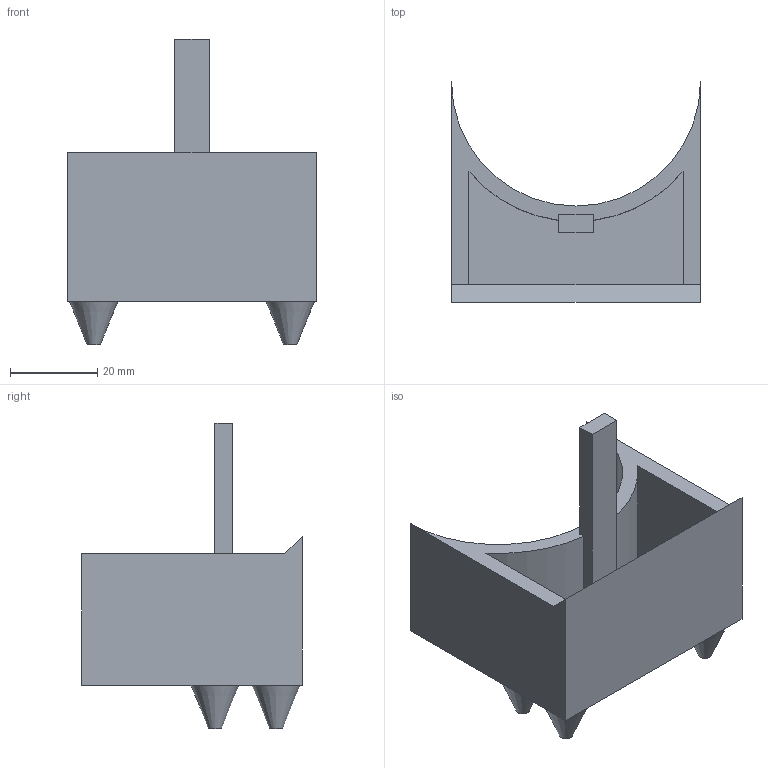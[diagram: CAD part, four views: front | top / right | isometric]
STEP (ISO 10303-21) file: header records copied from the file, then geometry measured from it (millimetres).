
FILE_DESCRIPTION(/* description */ ('STEP AP242','CAx-IF Rec.Pracs.---Representation and Presentation of Product Manufacturing Information (PMI)---4.0---2014-10-13','CAx-IF Rec.Pracs.---3D Tessellated Geometry---0.4---2014-09-14','2;1'),/* implementation_level */ '2;1');
FILE_NAME(/* name */ '66c9b453ffaa4d41a46b33a6',/* time_stamp */ '2024-08-24T10:22:12Z',/* author */ (''),/* organization */ (''),/* preprocessor_version */ 'ST-DEVELOPER v20',/* originating_system */ ' ',/* authorisation */ ' ');
FILE_SCHEMA (('AP242_MANAGED_MODEL_BASED_3D_ENGINEERING_MIM_LF { 1 0 10303 442 1 1 4 }'));
Length unit declared in the file: metre
Products named in the file (1): Part 1
Bounding box: 57 x 50.5 x 70 mm (x, y, z)
Volume: 28898 mm3; surface area: 16528.6 mm2
Topology: 1 solids, 1 shells, 26 faces, 62 edges, 42 vertices
Faces by surface type: plane 19, cone 4, cylinder 3
Entity records: 722 total; most frequent: DIRECTION 122, CARTESIAN_POINT 119, ORIENTED_EDGE 108, EDGE_CURVE 54, AXIS2_PLACEMENT_3D 41, LINE 40, VECTOR 40, VERTEX_POINT 38
